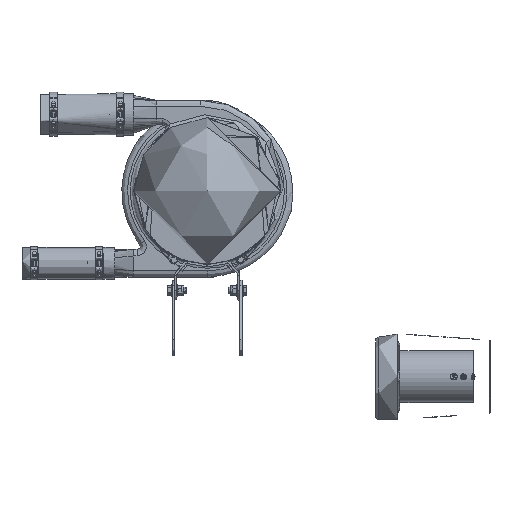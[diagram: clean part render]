
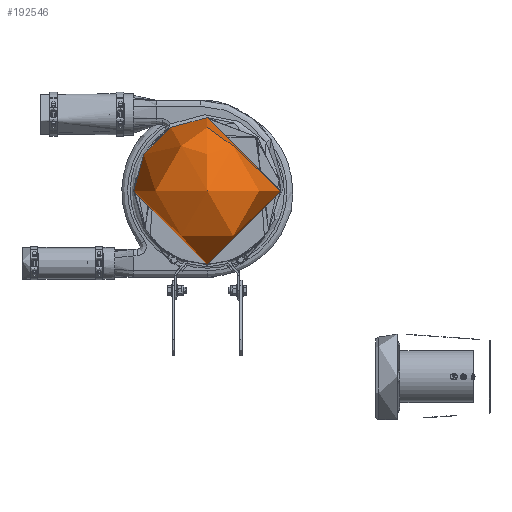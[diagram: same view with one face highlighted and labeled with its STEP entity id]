
A CAD part, top view. The second image highlights one B-rep face of the part: STEP entity #192546.
In plain terms, the highlighted spherical face has radius 198 mm.
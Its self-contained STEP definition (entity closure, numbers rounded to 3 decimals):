
#22=SPHERICAL_SURFACE('',#201879,198.);
#28467=FACE_OUTER_BOUND('',#39472,.T.);
#39472=EDGE_LOOP('',(#164748,#164749,#164750,#164751));
#73506=CIRCLE('',#200724,198.);
#73507=CIRCLE('',#200725,198.);
#73778=CIRCLE('',#201880,198.);
#86588=VERTEX_POINT('',#340174);
#86589=VERTEX_POINT('',#340176);
#89524=VERTEX_POINT('',#368800);
#110696=EDGE_CURVE('',#86588,#86589,#73506,.T.);
#110697=EDGE_CURVE('',#86589,#86588,#73507,.T.);
#115144=EDGE_CURVE('',#86589,#89524,#73778,.T.);
#164748=ORIENTED_EDGE('',*,*,#110697,.F.);
#164749=ORIENTED_EDGE('',*,*,#115144,.T.);
#164750=ORIENTED_EDGE('',*,*,#115144,.F.);
#164751=ORIENTED_EDGE('',*,*,#110696,.F.);
#192546=ADVANCED_FACE('',(#28467),#22,.T.);
#200724=AXIS2_PLACEMENT_3D('',#340177,#227792,#227793);
#200725=AXIS2_PLACEMENT_3D('',#340178,#227794,#227795);
#201879=AXIS2_PLACEMENT_3D('',#368799,#232558,#232559);
#201880=AXIS2_PLACEMENT_3D('',#368801,#232560,#232561);
#227792=DIRECTION('center_axis',(0.,0.,
-1.));
#227793=DIRECTION('ref_axis',(0.,-1.,0.));
#227794=DIRECTION('center_axis',(0.,0.,
-1.));
#227795=DIRECTION('ref_axis',(0.,-1.,0.));
#232558=DIRECTION('center_axis',(0.,0.,
-1.));
#232559=DIRECTION('ref_axis',(0.,-1.,0.));
#232560=DIRECTION('center_axis',(1.,0.,0.));
#232561=DIRECTION('ref_axis',(0.,1.,0.));
#340174=CARTESIAN_POINT('',(-198.,0.,646.));
#340176=CARTESIAN_POINT('',(0.,198.,646.));
#340177=CARTESIAN_POINT('Origin',(0.,0.,
646.));
#340178=CARTESIAN_POINT('Origin',(0.,0.,
646.));
#368799=CARTESIAN_POINT('Origin',(0.,0.,
646.));
#368800=CARTESIAN_POINT('',(0.,0.,
844.));
#368801=CARTESIAN_POINT('Origin',(0.,0.,
646.));
